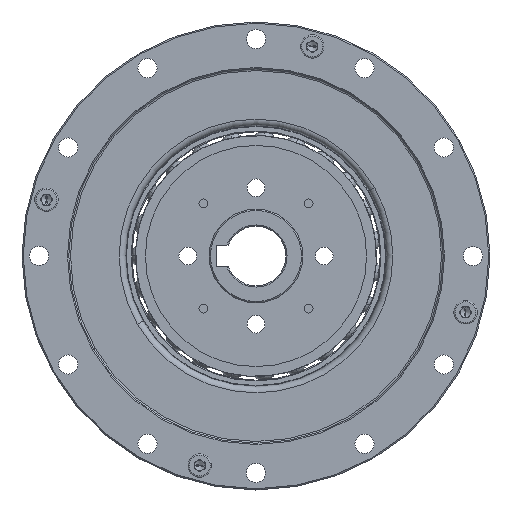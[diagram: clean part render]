
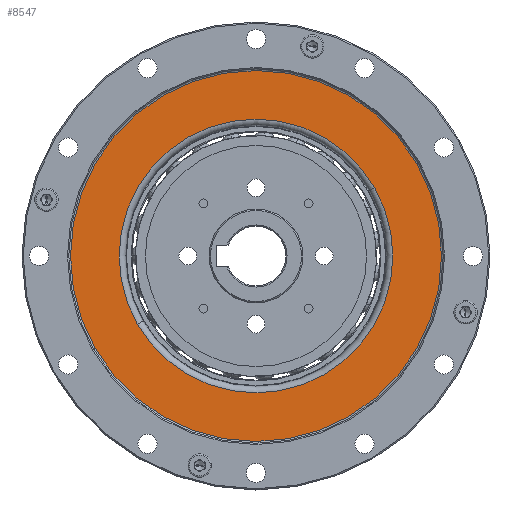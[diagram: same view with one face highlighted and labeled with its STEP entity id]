
A CAD part, left-side view. The second image highlights one B-rep face of the part: STEP entity #8547.
In plain terms, the highlighted planar face has unit normal (-1, 0, 0) as drawn and (0, -1, 0) by its records, which use the part's own axes.
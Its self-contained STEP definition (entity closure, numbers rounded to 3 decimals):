
#196 = AXIS2_PLACEMENT_3D ( 'NONE', #231, #12055, #1906 ) ;
#231 = CARTESIAN_POINT ( 'NONE',  ( 0., 2.95, 0. ) ) ;
#276 = DIRECTION ( 'NONE',  ( 0., 0., -1. ) ) ;
#682 = CARTESIAN_POINT ( 'NONE',  ( 0., 2.95, 0. ) ) ;
#781 = DIRECTION ( 'NONE',  ( 0., 0., -1. ) ) ;
#939 = AXIS2_PLACEMENT_3D ( 'NONE', #20515, #10385, #276 ) ;
#1524 = VERTEX_POINT ( 'NONE', #8126 ) ;
#1906 = DIRECTION ( 'NONE',  ( 0., 0., -1. ) ) ;
#2366 = DIRECTION ( 'NONE',  ( 0., 0., -1. ) ) ;
#3092 = EDGE_LOOP ( 'NONE', ( #9230, #4504 ) ) ;
#4024 = ORIENTED_EDGE ( 'NONE', *, *, #17366, .F. ) ;
#4220 = DIRECTION ( 'NONE',  ( 0., 0., -1. ) ) ;
#4504 = ORIENTED_EDGE ( 'NONE', *, *, #6224, .T. ) ;
#6224 = EDGE_CURVE ( 'NONE', #11651, #1524, #16082, .T. ) ;
#6390 = AXIS2_PLACEMENT_3D ( 'NONE', #682, #12527, #2366 ) ;
#6682 = AXIS2_PLACEMENT_3D ( 'NONE', #21091, #14344, #4220 ) ;
#6894 = CIRCLE ( 'NONE', #939, 43.6 ) ;
#8126 = CARTESIAN_POINT ( 'NONE',  ( 0., 2.95, -43.6 ) ) ;
#8245 = VERTEX_POINT ( 'NONE', #18642 ) ;
#8547 = ADVANCED_FACE ( 'NONE', ( #16535, #21045 ), #17609, .T. ) ;
#8944 = EDGE_CURVE ( 'NONE', #8245, #15929, #19169, .T. ) ;
#9230 = ORIENTED_EDGE ( 'NONE', *, *, #11135, .T. ) ;
#10385 = DIRECTION ( 'NONE',  ( 0., -1., 0. ) ) ;
#10893 = DIRECTION ( 'NONE',  ( 0., -1., 0. ) ) ;
#11135 = EDGE_CURVE ( 'NONE', #1524, #11651, #6894, .T. ) ;
#11543 = ORIENTED_EDGE ( 'NONE', *, *, #8944, .F. ) ;
#11651 = VERTEX_POINT ( 'NONE', #13488 ) ;
#12055 = DIRECTION ( 'NONE',  ( 0., -1., 0. ) ) ;
#12527 = DIRECTION ( 'NONE',  ( 0., -1., 0. ) ) ;
#13291 = EDGE_LOOP ( 'NONE', ( #11543, #4024 ) ) ;
#13488 = CARTESIAN_POINT ( 'NONE',  ( 0., 2.95, 43.6 ) ) ;
#14344 = DIRECTION ( 'NONE',  ( 0., -1., 0. ) ) ;
#15929 = VERTEX_POINT ( 'NONE', #17063 ) ;
#16082 = CIRCLE ( 'NONE', #16249, 43.6 ) ;
#16249 = AXIS2_PLACEMENT_3D ( 'NONE', #21030, #10893, #781 ) ;
#16535 = FACE_OUTER_BOUND ( 'NONE', #3092, .T. ) ;
#17063 = CARTESIAN_POINT ( 'NONE',  ( 0., 2.95, 32.17 ) ) ;
#17366 = EDGE_CURVE ( 'NONE', #15929, #8245, #21842, .T. ) ;
#17609 = PLANE ( 'NONE',  #6682 ) ;
#18642 = CARTESIAN_POINT ( 'NONE',  ( 0., 2.95, -32.17 ) ) ;
#19169 = CIRCLE ( 'NONE', #196, 32.17 ) ;
#20515 = CARTESIAN_POINT ( 'NONE',  ( 0., 2.95, 0. ) ) ;
#21030 = CARTESIAN_POINT ( 'NONE',  ( 0., 2.95, 0. ) ) ;
#21045 = FACE_BOUND ( 'NONE', #13291, .T. ) ;
#21091 = CARTESIAN_POINT ( 'NONE',  ( 43.6, 2.95, 0. ) ) ;
#21842 = CIRCLE ( 'NONE', #6390, 32.17 ) ;
